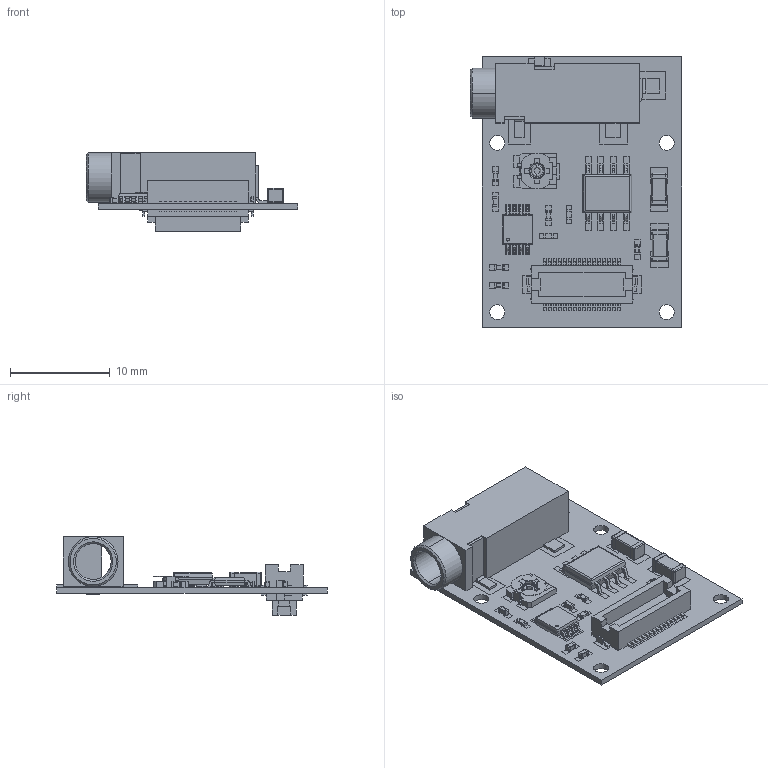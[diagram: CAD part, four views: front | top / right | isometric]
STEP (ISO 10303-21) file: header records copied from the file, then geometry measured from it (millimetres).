
FILE_DESCRIPTION(('FreeCAD Model'),'2;1');
FILE_NAME('/home/devy/MEGA/TinyCircuits/Assets/BoardsANDBoardModels_2/Shields/TinyCircuits-TinyShield-Audio-ASD2841/cad/TinyShield_AUDIO_ASD2841_REV5-STEP.step','2020-07-21T14:35:43',(''),(''), 'Open CASCADE STEP processor 7.4','FreeCAD','Unknown');
FILE_SCHEMA(('AUTOMOTIVE_DESIGN { 1 0 10303 214 1 1 1 1 }'));
Products named in the file (1): TinyShield_AUDIO_ASD2841_REV5-STEP
Bounding box: 21.2 x 27.14 x 7.9 mm (x, y, z)
Volume: 1222.2 mm3; surface area: 4108.9 mm2
Topology: 188 solids, 188 shells, 3013 faces, 8792 edges, 7483 vertices
Faces by surface type: plane 2313, cylinder 458, bspline 122, sphere 112, cone 4, torus 4
Full cylindrical faces by diameter (mm): 0.5 x6, 0.652 x8, 1.502 x8, 1.802 x4
Entity records: 228033 total; most frequent: CARTESIAN_POINT 45874, DIRECTION 29075, LINE 19103, VECTOR 19103, ORIENTED_EDGE 14320, PCURVE 14320, DEFINITIONAL_REPRESENTATION 14320, EDGE_CURVE 7160
